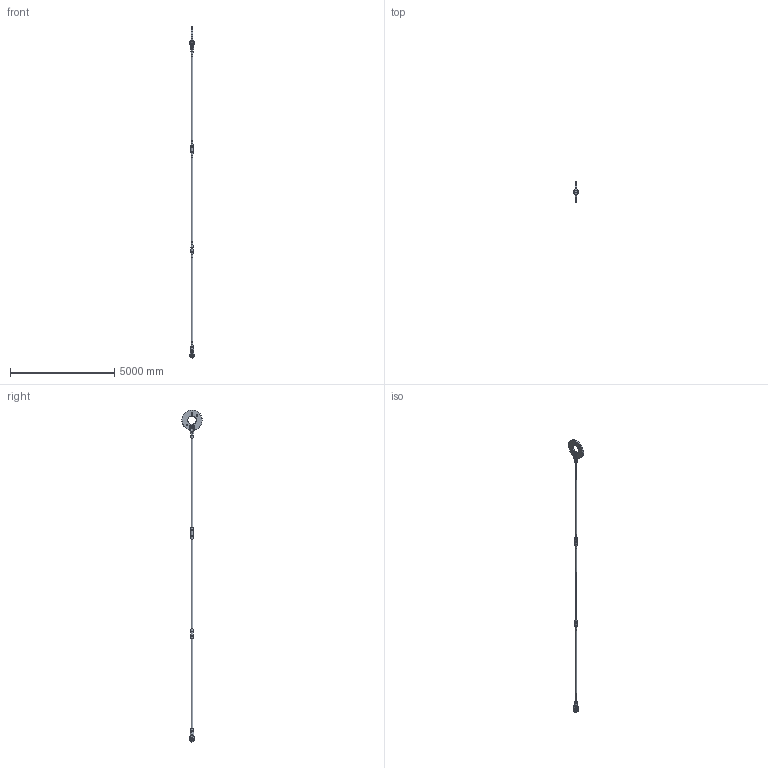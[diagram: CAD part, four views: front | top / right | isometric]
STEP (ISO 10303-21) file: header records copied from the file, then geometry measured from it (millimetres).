
FILE_DESCRIPTION(/* description */ (''),/* implementation_level */ '2;1');
FILE_NAME(/* name */ 'C:\Vault-WS\Anker\Werksnorm\Hochbau\ASDO-System\ASDO-S\System Komplett\Step\M 080.stp',/* time_stamp */ '2014-01-30T09:24:26+01:00',/* author */ ('ritgen'),/* organization */ (''),/* preprocessor_version */ 'ST-DEVELOPER v15.2',/* originating_system */ 'Autodesk Inventor 2014',/* authorisation */ '');
FILE_SCHEMA (('AUTOMOTIVE_DESIGN { 1 0 10303 214 3 1 1 }'));
Length unit declared in the file: millimetre
Products named in the file (11): ASDO-005768; ASDO-014273; ASDO-014325; DIN 7991 - M12x30 - 8.8; ASDO-013942; ASDO-001705; ASDO-001345; ASDO-001461; ASDO-006457; ASDO-014037; ASDO-006456
Bounding box: 198 x 974.07 x 15928.57 mm (x, y, z)
Volume: 136030287.5 mm3; surface area: 7207741.6 mm2
Topology: 24 solids, 24 shells, 507 faces, 1084 edges, 658 vertices
Faces by surface type: plane 168, bspline 144, cylinder 89, cone 58, torus 48
Full cylindrical faces by diameter (mm): 9 x18, 10.106 x4, 12 x4, 14 x4, 24 x4, 73.505 x11, 80 x5, 82 x14, 84 x1, 84.5 x6, 110 x4, 113 x6, 127 x2, 400 x1, 975 x1
Entity records: 14077 total; most frequent: CARTESIAN_POINT 9681, ORIENTED_EDGE 790, DIRECTION 790, EDGE_CURVE 395, AXIS2_PLACEMENT_3D 365, EDGE_LOOP 330, VERTEX_POINT 277, ADVANCED_FACE 221
